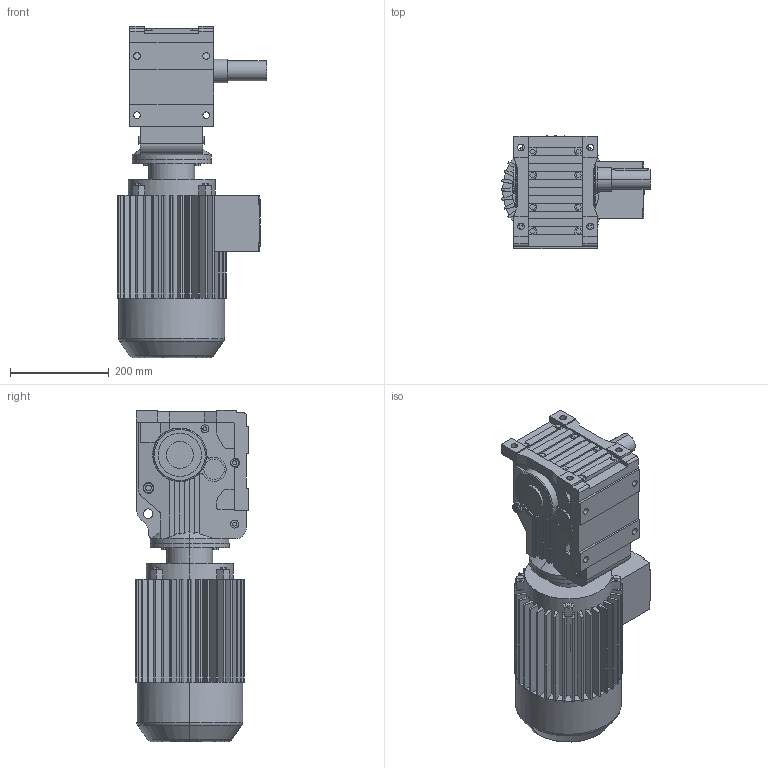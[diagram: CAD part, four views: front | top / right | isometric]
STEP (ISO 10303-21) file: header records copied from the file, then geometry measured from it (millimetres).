
FILE_DESCRIPTION(('Open CASCADE Model'),'2;1');
FILE_NAME('Open CASCADE Shape Model','2021-06-10T14:14:14',('Author'),( 'Open CASCADE'),'Open CASCADE STEP processor 6.3','Open CASCADE 6.3' ,'Unknown');
FILE_SCHEMA(('AUTOMOTIVE_DESIGN_CC2 { 1 2 10303 214 -1 1 5 4 }'));
Length unit declared in the file: millimetre
Products named in the file (4): 1_K67DV132S-A; K37‵157_67.step; 萇儂_160-DV132S-402-482-221-179.step; す瑩妗陑粣K_67.step
Assembly tree (3 placements, depth 2):
  1_K67DV132S-A
    K37‵157_67.step
    萇儂_160-DV132S-402-482-221-179.step
    す瑩妗陑粣K_67.step
Bounding box: 303.5 x 230.5 x 671 mm (x, y, z)
Volume: 20047435.2 mm3; surface area: 1030662.4 mm2
Topology: 3 solids, 3 shells, 839 faces, 2210 edges, 1434 vertices
Faces by surface type: plane 584, cylinder 231, cone 16, torus 8
Entity records: 57784 total; most frequent: CARTESIAN_POINT 15775, DIRECTION 7244, ORIENTED_EDGE 4416, PCURVE 4416, DEFINITIONAL_REPRESENTATION 4416, LINE 3943, VECTOR 3943, EDGE_CURVE 2208
